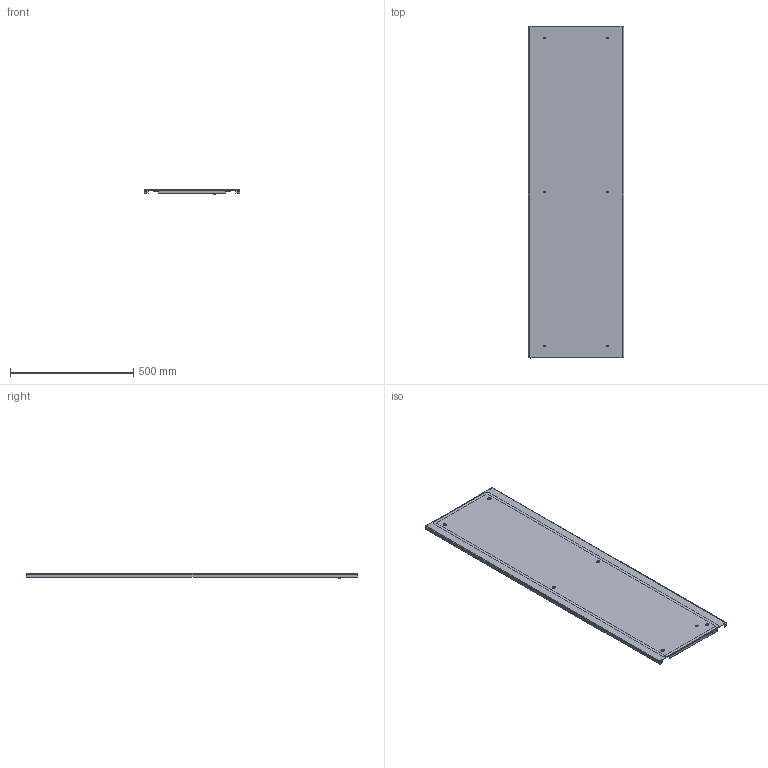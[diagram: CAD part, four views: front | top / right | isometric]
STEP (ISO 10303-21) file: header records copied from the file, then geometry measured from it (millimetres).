
FILE_DESCRIPTION(('STEP AP203'), '1');
FILE_NAME('Ïàíåëü ëèöåâàÿ ãëóõàÿ 550õ1200 ìì OptiBox M 419950 ÊÝÀÇ', '', ('UNSPECIFIED'), ('UNSPECIFIED'), 'C3D Converter', 'C3D Toolkit', '');
FILE_SCHEMA(('CONFIG_CONTROL_DESIGN'));
Length unit declared in the file: millimetre
Bounding box: 386.4 x 1347 x 18.9 mm (x, y, z)
Volume: 1011321.3 mm3; surface area: 1230219.6 mm2
Topology: 3 solids, 3 shells, 174 faces, 397 edges, 238 vertices
Faces by surface type: plane 111, cylinder 55, bspline 8
Full cylindrical faces by diameter (mm): 0.75 x1, 1 x1, 5 x2, 7.3 x6, 8 x1, 9.3 x1, 13 x1, 13.5 x6
Entity records: 5888 total; most frequent: CARTESIAN_POINT 2027, ORIENTED_EDGE 756, DIRECTION 754, EDGE_CURVE 378, LINE 264, VECTOR 264, AXIS2_PLACEMENT_3D 245, VERTEX_POINT 238
